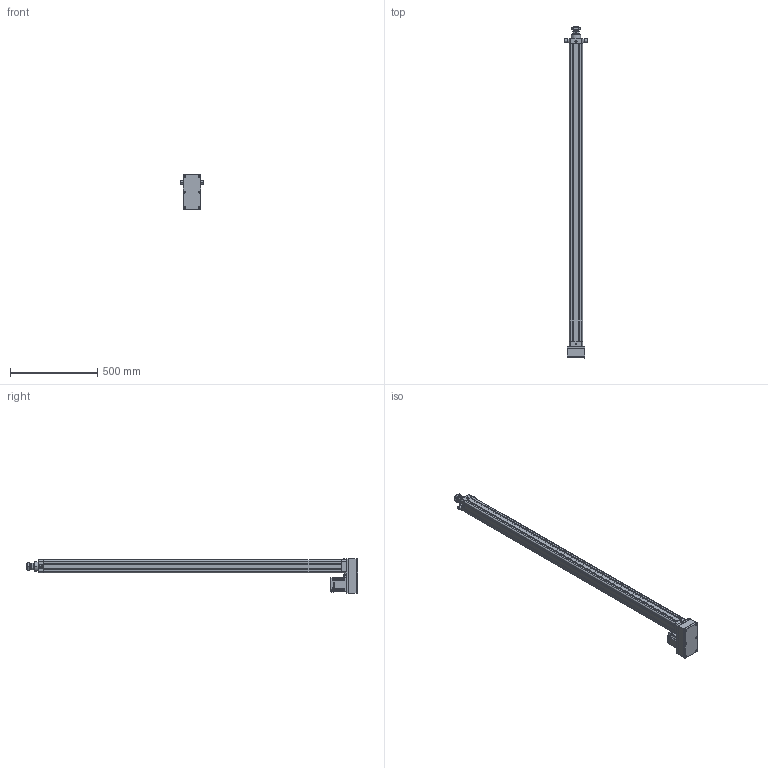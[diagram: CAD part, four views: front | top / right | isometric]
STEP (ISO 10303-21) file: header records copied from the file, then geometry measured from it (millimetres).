
FILE_DESCRIPTION((''),'2;1');
FILE_NAME('HE63-D-100-X1_ASM','2020-05-15T',('ASUS20200'),(''),'CREO PARAMETRIC BY PTC INC, 2014190','CREO PARAMETRIC BY PTC INC, 2014190','');
FILE_SCHEMA(('CONFIG_CONTROL_DESIGN'));
Length unit declared in the file: millimetre
Products named in the file (24): HE63-D-P-001-X1; HE63-D-P-002-X1; HE63-D-P-003-X1; LGLM-M8-22; SLM-01; YZ-M6X1; JDB405030; HE63-P-010-X1-80N; _MHMF082L1A2; MHMF082L1A2M2_1_ASM; JX6X6X25; HE63-P-012-X1; HE63-P-013-X1; M6X60; JM-M8; LM-M8-15; LM-M8X1-25; HE63-D-P-005-X1; HE63-D-P-004-X1; HE63-D-P-008-X1; TD-6; M6X25; HE63-TC; HE63-D-100-X1_ASM
Assembly tree (42 placements, depth 3):
  HE63-D-100-X1_ASM
    HE63-D-P-001-X1
    HE63-D-P-002-X1
    HE63-D-P-003-X1
    LGLM-M8-22  x8
    SLM-01
    YZ-M6X1
    JDB405030
    HE63-P-010-X1-80N
    MHMF082L1A2M2_1_ASM
      _MHMF082L1A2
    JX6X6X25
    HE63-P-012-X1
    HE63-P-013-X1
    M6X60  x6
    JM-M8
    LM-M8-15
    LM-M8X1-25
    HE63-D-P-005-X1
    HE63-D-P-004-X1
    HE63-D-P-008-X1
    TD-6  x4
    M6X25  x4
    HE63-TC  x2
Bounding box: 135 x 1907 x 200.5 mm (x, y, z)
Volume: 5020540.7 mm3; surface area: 1552350 mm2
Topology: 41 solids, 73 shells, 2125 faces, 5077 edges, 3130 vertices
Faces by surface type: plane 810, cylinder 621, cone 559, torus 102, sphere 30, bspline 3
Entity records: 49413 total; most frequent: CARTESIAN_POINT 9677, DIRECTION 8799, ORIENTED_EDGE 7698, EDGE_CURVE 3909, AXIS2_PLACEMENT_3D 3391, VERTEX_POINT 2424, VECTOR 2017, LINE 2017
